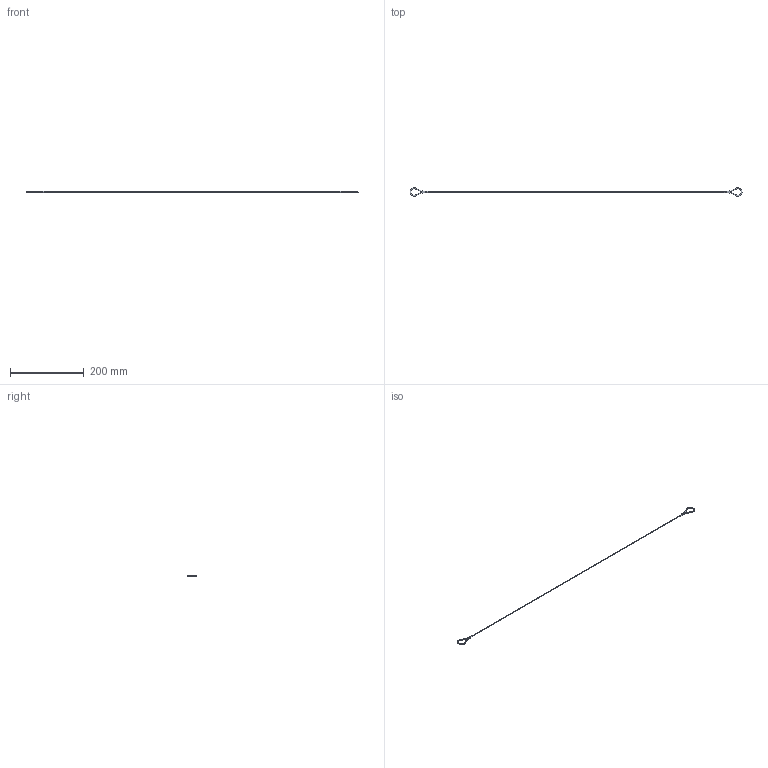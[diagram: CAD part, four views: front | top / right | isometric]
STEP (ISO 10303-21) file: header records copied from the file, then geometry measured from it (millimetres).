
FILE_DESCRIPTION (( 'STEP AP203' ), '1' );
FILE_NAME ('EB-935-21.STEP', '2013-08-12T06:39:20', ( 'SDS' ), ( 'SDS' ), 'SwSTEP 2.0', 'SolidWorks 2002296', '' );
FILE_SCHEMA (( 'CONFIG_CONTROL_DESIGN' ));
Length unit declared in the file: millimetre
Products named in the file (1): EB-935-21
Bounding box: 899.98 x 22.48 x 5 mm (x, y, z)
Volume: 3465.7 mm3; surface area: 6563.8 mm2
Topology: 1 solids, 1 shells, 36 faces, 90 edges, 54 vertices
Faces by surface type: bspline 24, plane 6, cylinder 6
Entity records: 1833 total; most frequent: CARTESIAN_POINT 1033, ORIENTED_EDGE 180, DIRECTION 128, EDGE_CURVE 90, AXIS2_PLACEMENT_3D 61, VERTEX_POINT 54, CIRCLE 48, EDGE_LOOP 38
